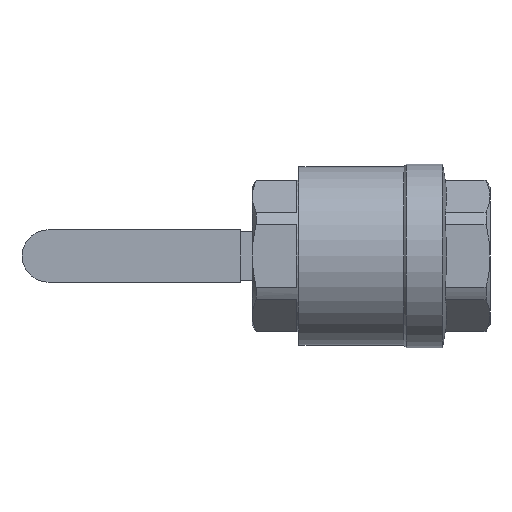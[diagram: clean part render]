
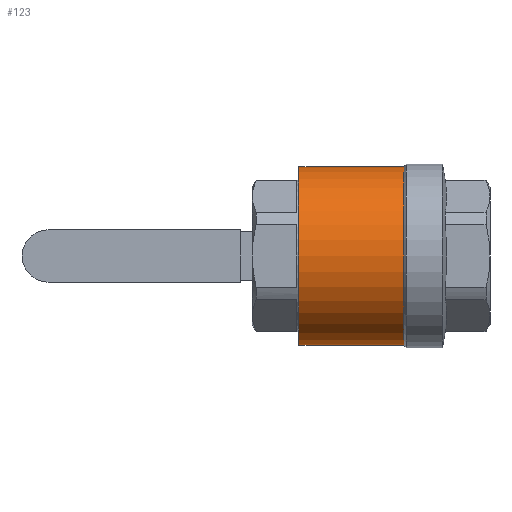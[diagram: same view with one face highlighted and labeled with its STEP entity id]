
A CAD part, front view. The second image highlights one B-rep face of the part: STEP entity #123.
In plain terms, the highlighted cylindrical face has radius 65 mm (diameter 130 mm), a partial arc.
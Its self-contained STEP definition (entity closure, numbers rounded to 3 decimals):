
#27 = ORIENTED_EDGE ( 'NONE', *, *, #2560, .T. ) ;
#109 = CARTESIAN_POINT ( 'NONE',  ( -55.019, 0., 65. ) ) ;
#123 = ADVANCED_FACE ( 'NONE', ( #4117 ), #1127, .T. ) ;
#233 = CARTESIAN_POINT ( 'NONE',  ( -52.5, 0., 0. ) ) ;
#379 = CARTESIAN_POINT ( 'NONE',  ( -52.5, 0., 65. ) ) ;
#556 = ORIENTED_EDGE ( 'NONE', *, *, #2145, .F. ) ;
#601 = DIRECTION ( 'NONE',  ( 0., 0., 1. ) ) ;
#778 = CARTESIAN_POINT ( 'NONE',  ( -55.019, 0., 0. ) ) ;
#865 = ORIENTED_EDGE ( 'NONE', *, *, #4331, .T. ) ;
#952 = CARTESIAN_POINT ( 'NONE',  ( 23.75, 0., 0. ) ) ;
#967 = CIRCLE ( 'NONE', #1613, 65. ) ;
#1127 = CYLINDRICAL_SURFACE ( 'NONE', #2092, 65. ) ;
#1244 = EDGE_CURVE ( 'NONE', #3471, #2678, #3377, .T. ) ;
#1326 = DIRECTION ( 'NONE',  ( 0., 0., 1. ) ) ;
#1327 = LINE ( 'NONE', #109, #3313 ) ;
#1582 = ORIENTED_EDGE ( 'NONE', *, *, #1244, .F. ) ;
#1613 = AXIS2_PLACEMENT_3D ( 'NONE', #233, #2839, #601 ) ;
#2092 = AXIS2_PLACEMENT_3D ( 'NONE', #778, #3402, #3017 ) ;
#2145 = EDGE_CURVE ( 'NONE', #2678, #2672, #967, .T. ) ;
#2194 = DIRECTION ( 'NONE',  ( -1., 0., 0. ) ) ;
#2365 = VECTOR ( 'NONE', #2194, 1000. ) ;
#2560 = EDGE_CURVE ( 'NONE', #3471, #4268, #4187, .T. ) ;
#2566 = CARTESIAN_POINT ( 'NONE',  ( 23.75, 0., -65. ) ) ;
#2609 = CARTESIAN_POINT ( 'NONE',  ( -52.5, 0., -65. ) ) ;
#2672 = VERTEX_POINT ( 'NONE', #379 ) ;
#2678 = VERTEX_POINT ( 'NONE', #2609 ) ;
#2839 = DIRECTION ( 'NONE',  ( -1., 0., 0. ) ) ;
#3017 = DIRECTION ( 'NONE',  ( 0., 0., 1. ) ) ;
#3097 = DIRECTION ( 'NONE',  ( -1., 0., 0. ) ) ;
#3313 = VECTOR ( 'NONE', #3097, 1000. ) ;
#3323 = CARTESIAN_POINT ( 'NONE',  ( -55.019, 0., -65. ) ) ;
#3377 = LINE ( 'NONE', #3323, #2365 ) ;
#3402 = DIRECTION ( 'NONE',  ( -1., 0., 0. ) ) ;
#3471 = VERTEX_POINT ( 'NONE', #2566 ) ;
#3578 = DIRECTION ( 'NONE',  ( -1., 0., 0. ) ) ;
#3670 = EDGE_LOOP ( 'NONE', ( #1582, #27, #865, #556 ) ) ;
#4117 = FACE_OUTER_BOUND ( 'NONE', #3670, .T. ) ;
#4187 = CIRCLE ( 'NONE', #4295, 65. ) ;
#4268 = VERTEX_POINT ( 'NONE', #4557 ) ;
#4295 = AXIS2_PLACEMENT_3D ( 'NONE', #952, #3578, #1326 ) ;
#4331 = EDGE_CURVE ( 'NONE', #4268, #2672, #1327, .T. ) ;
#4557 = CARTESIAN_POINT ( 'NONE',  ( 23.75, 0., 65. ) ) ;
